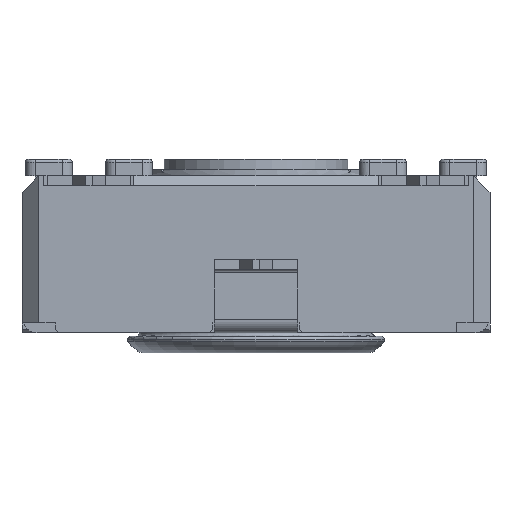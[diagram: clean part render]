
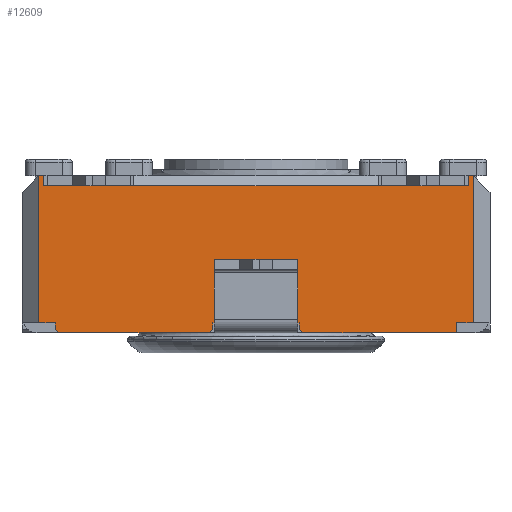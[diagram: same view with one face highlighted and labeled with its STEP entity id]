
A CAD part, front view. The second image highlights one B-rep face of the part: STEP entity #12609.
In plain terms, the highlighted planar face has unit normal (0, -1, 0).
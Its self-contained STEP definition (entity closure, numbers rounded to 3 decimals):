
#656=FACE_OUTER_BOUND('',#1327,.T.);
#1327=EDGE_LOOP('',(#8391,#8392,#8393,#8394,#8395,#8396,#8397,#8398,#8399,
#8400,#8401,#8402,#8403,#8404,#8405,#8406,#8407,#8408,#8409,#8410,#8411,
#8412,#8413,#8414,#8415,#8416,#8417));
#2018=LINE('',#17945,#3511);
#2031=LINE('',#17979,#3524);
#2036=LINE('',#17989,#3529);
#2114=LINE('',#18150,#3607);
#2139=LINE('',#18201,#3632);
#2165=LINE('',#18265,#3658);
#2166=LINE('',#18267,#3659);
#2167=LINE('',#18269,#3660);
#2168=LINE('',#18270,#3661);
#2169=LINE('',#18272,#3662);
#2170=LINE('',#18274,#3663);
#2171=LINE('',#18276,#3664);
#2172=LINE('',#18278,#3665);
#2173=LINE('',#18279,#3666);
#2174=LINE('',#18281,#3667);
#2175=LINE('',#18283,#3668);
#2176=LINE('',#18285,#3669);
#2177=LINE('',#18287,#3670);
#2178=LINE('',#18289,#3671);
#2179=LINE('',#18291,#3672);
#2180=LINE('',#18293,#3673);
#2181=LINE('',#18295,#3674);
#2182=LINE('',#18297,#3675);
#2183=LINE('',#18298,#3676);
#2184=LINE('',#18300,#3677);
#2185=LINE('',#18302,#3678);
#2186=LINE('',#18303,#3679);
#3511=VECTOR('',#14398,10.);
#3524=VECTOR('',#14437,10.);
#3529=VECTOR('',#14442,10.);
#3607=VECTOR('',#14546,10.);
#3632=VECTOR('',#14587,10.);
#3658=VECTOR('',#14635,10.);
#3659=VECTOR('',#14636,10.);
#3660=VECTOR('',#14637,10.);
#3661=VECTOR('',#14638,10.);
#3662=VECTOR('',#14639,10.);
#3663=VECTOR('',#14640,10.);
#3664=VECTOR('',#14641,10.);
#3665=VECTOR('',#14642,10.);
#3666=VECTOR('',#14643,10.);
#3667=VECTOR('',#14644,10.);
#3668=VECTOR('',#14645,10.);
#3669=VECTOR('',#14646,10.);
#3670=VECTOR('',#14647,10.);
#3671=VECTOR('',#14648,10.);
#3672=VECTOR('',#14649,10.);
#3673=VECTOR('',#14650,10.);
#3674=VECTOR('',#14651,10.);
#3675=VECTOR('',#14652,10.);
#3676=VECTOR('',#14653,10.);
#3677=VECTOR('',#14654,10.);
#3678=VECTOR('',#14655,10.);
#3679=VECTOR('',#14656,10.);
#4991=VERTEX_POINT('',#17923);
#4999=VERTEX_POINT('',#17944);
#5007=VERTEX_POINT('',#17978);
#5011=VERTEX_POINT('',#17986);
#5012=VERTEX_POINT('',#17988);
#5081=VERTEX_POINT('',#18147);
#5082=VERTEX_POINT('',#18149);
#5099=VERTEX_POINT('',#18198);
#5100=VERTEX_POINT('',#18200);
#5127=VERTEX_POINT('',#18264);
#5128=VERTEX_POINT('',#18266);
#5129=VERTEX_POINT('',#18268);
#5130=VERTEX_POINT('',#18271);
#5131=VERTEX_POINT('',#18273);
#5132=VERTEX_POINT('',#18275);
#5133=VERTEX_POINT('',#18277);
#5134=VERTEX_POINT('',#18280);
#5135=VERTEX_POINT('',#18282);
#5136=VERTEX_POINT('',#18284);
#5137=VERTEX_POINT('',#18286);
#5138=VERTEX_POINT('',#18288);
#5139=VERTEX_POINT('',#18290);
#5140=VERTEX_POINT('',#18292);
#5141=VERTEX_POINT('',#18294);
#5142=VERTEX_POINT('',#18296);
#5143=VERTEX_POINT('',#18299);
#5144=VERTEX_POINT('',#18301);
#6238=EDGE_CURVE('',#4991,#4999,#2018,.T.);
#6255=EDGE_CURVE('',#5007,#4991,#2031,.T.);
#6260=EDGE_CURVE('',#5012,#5011,#2036,.T.);
#6340=EDGE_CURVE('',#5082,#5081,#2114,.T.);
#6365=EDGE_CURVE('',#5100,#5099,#2139,.T.);
#6397=EDGE_CURVE('',#5081,#5127,#2165,.T.);
#6398=EDGE_CURVE('',#5127,#5128,#2166,.T.);
#6399=EDGE_CURVE('',#5128,#5129,#2167,.T.);
#6400=EDGE_CURVE('',#5012,#5129,#2168,.T.);
#6401=EDGE_CURVE('',#5011,#5130,#2169,.T.);
#6402=EDGE_CURVE('',#5131,#5130,#2170,.T.);
#6403=EDGE_CURVE('',#5131,#5132,#2171,.T.);
#6404=EDGE_CURVE('',#5133,#5132,#2172,.T.);
#6405=EDGE_CURVE('',#5007,#5133,#2173,.T.);
#6406=EDGE_CURVE('',#4999,#5134,#2174,.T.);
#6407=EDGE_CURVE('',#5134,#5135,#2175,.T.);
#6408=EDGE_CURVE('',#5136,#5135,#2176,.T.);
#6409=EDGE_CURVE('',#5136,#5137,#2177,.T.);
#6410=EDGE_CURVE('',#5137,#5138,#2178,.T.);
#6411=EDGE_CURVE('',#5138,#5139,#2179,.T.);
#6412=EDGE_CURVE('',#5140,#5139,#2180,.T.);
#6413=EDGE_CURVE('',#5140,#5141,#2181,.T.);
#6414=EDGE_CURVE('',#5141,#5142,#2182,.T.);
#6415=EDGE_CURVE('',#5142,#5100,#2183,.T.);
#6416=EDGE_CURVE('',#5099,#5143,#2184,.T.);
#6417=EDGE_CURVE('',#5144,#5143,#2185,.T.);
#6418=EDGE_CURVE('',#5144,#5082,#2186,.T.);
#8391=ORIENTED_EDGE('',*,*,#6340,.T.);
#8392=ORIENTED_EDGE('',*,*,#6397,.T.);
#8393=ORIENTED_EDGE('',*,*,#6398,.T.);
#8394=ORIENTED_EDGE('',*,*,#6399,.T.);
#8395=ORIENTED_EDGE('',*,*,#6400,.F.);
#8396=ORIENTED_EDGE('',*,*,#6260,.T.);
#8397=ORIENTED_EDGE('',*,*,#6401,.T.);
#8398=ORIENTED_EDGE('',*,*,#6402,.F.);
#8399=ORIENTED_EDGE('',*,*,#6403,.T.);
#8400=ORIENTED_EDGE('',*,*,#6404,.F.);
#8401=ORIENTED_EDGE('',*,*,#6405,.F.);
#8402=ORIENTED_EDGE('',*,*,#6255,.T.);
#8403=ORIENTED_EDGE('',*,*,#6238,.T.);
#8404=ORIENTED_EDGE('',*,*,#6406,.T.);
#8405=ORIENTED_EDGE('',*,*,#6407,.T.);
#8406=ORIENTED_EDGE('',*,*,#6408,.F.);
#8407=ORIENTED_EDGE('',*,*,#6409,.T.);
#8408=ORIENTED_EDGE('',*,*,#6410,.T.);
#8409=ORIENTED_EDGE('',*,*,#6411,.T.);
#8410=ORIENTED_EDGE('',*,*,#6412,.F.);
#8411=ORIENTED_EDGE('',*,*,#6413,.T.);
#8412=ORIENTED_EDGE('',*,*,#6414,.T.);
#8413=ORIENTED_EDGE('',*,*,#6415,.T.);
#8414=ORIENTED_EDGE('',*,*,#6365,.T.);
#8415=ORIENTED_EDGE('',*,*,#6416,.T.);
#8416=ORIENTED_EDGE('',*,*,#6417,.F.);
#8417=ORIENTED_EDGE('',*,*,#6418,.T.);
#11889=PLANE('',#13326);
#12609=ADVANCED_FACE('',(#656),#11889,.T.);
#13326=AXIS2_PLACEMENT_3D('',#18263,#14633,#14634);
#14398=DIRECTION('',(1.,0.,0.));
#14437=DIRECTION('',(1.,0.,0.));
#14442=DIRECTION('',(1.,0.,0.));
#14546=DIRECTION('',(-1.,0.,0.));
#14587=DIRECTION('',(-1.,0.,0.));
#14633=DIRECTION('center_axis',(0.,-1.,0.));
#14634=DIRECTION('ref_axis',(0.,0.,-1.));
#14635=DIRECTION('',(-1.,0.,0.));
#14636=DIRECTION('',(0.,0.,1.));
#14637=DIRECTION('',(-1.,0.,0.));
#14638=DIRECTION('',(0.,0.,1.));
#14639=DIRECTION('',(0.,0.,-1.));
#14640=DIRECTION('',(-0.707,0.,0.707));
#14641=DIRECTION('',(1.,0.,0.));
#14642=DIRECTION('',(-0.707,0.,-0.707));
#14643=DIRECTION('',(0.,0.,-1.));
#14644=DIRECTION('',(1.,0.,0.));
#14645=DIRECTION('',(0.,0.,-1.));
#14646=DIRECTION('',(-0.707,0.,0.707));
#14647=DIRECTION('',(1.,0.,0.));
#14648=DIRECTION('',(0.,0.,1.));
#14649=DIRECTION('',(1.,0.,0.));
#14650=DIRECTION('',(0.,0.,-1.));
#14651=DIRECTION('',(-1.,0.,0.));
#14652=DIRECTION('',(0.,0.,-1.));
#14653=DIRECTION('',(-1.,0.,0.));
#14654=DIRECTION('',(-1.,0.,0.));
#14655=DIRECTION('',(1.,0.,0.));
#14656=DIRECTION('',(-1.,0.,0.));
#17923=CARTESIAN_POINT('',(-8.717,-9.898,0.));
#17944=CARTESIAN_POINT('',(-6.217,-9.898,0.));
#17945=CARTESIAN_POINT('',(-14.467,-9.898,0.));
#17978=CARTESIAN_POINT('',(-8.767,-9.898,0.));
#17979=CARTESIAN_POINT('',(-14.467,-9.898,0.));
#17986=CARTESIAN_POINT('',(-13.467,-9.898,0.));
#17988=CARTESIAN_POINT('',(-13.967,-9.898,0.));
#17989=CARTESIAN_POINT('',(-7.245,-9.898,0.));
#18147=CARTESIAN_POINT('',(-13.717,-9.898,4.1));
#18149=CARTESIAN_POINT('',(-11.217,-9.898,4.1));
#18150=CARTESIAN_POINT('',(-6.467,-9.898,4.1));
#18198=CARTESIAN_POINT('',(-3.717,-9.898,4.1));
#18200=CARTESIAN_POINT('',(-1.217,-9.898,4.1));
#18201=CARTESIAN_POINT('',(-1.467,-9.898,4.1));
#18263=CARTESIAN_POINT('Origin',(-0.467,-9.898,0.));
#18264=CARTESIAN_POINT('',(-13.817,-9.898,4.1));
#18265=CARTESIAN_POINT('',(-3.944,-9.898,4.1));
#18266=CARTESIAN_POINT('',(-13.817,-9.898,4.4));
#18267=CARTESIAN_POINT('',(-13.817,-9.898,2.2));
#18268=CARTESIAN_POINT('',(-13.967,-9.898,4.4));
#18269=CARTESIAN_POINT('',(-14.467,-9.898,4.4));
#18270=CARTESIAN_POINT('',(-13.967,-9.898,0.));
#18271=CARTESIAN_POINT('',(-13.467,-9.898,-0.2));
#18272=CARTESIAN_POINT('',(-13.467,-9.898,-0.15));
#18273=CARTESIAN_POINT('',(-13.367,-9.898,-0.3));
#18274=CARTESIAN_POINT('',(-10.242,-9.898,-3.425));
#18275=CARTESIAN_POINT('',(-8.867,-9.898,-0.3));
#18276=CARTESIAN_POINT('',(-0.467,-9.898,-0.3));
#18277=CARTESIAN_POINT('',(-8.767,-9.898,-0.2));
#18278=CARTESIAN_POINT('',(-6.667,-9.898,1.9));
#18279=CARTESIAN_POINT('',(-8.767,-9.898,0.));
#18280=CARTESIAN_POINT('',(-6.167,-9.898,0.));
#18281=CARTESIAN_POINT('',(-14.467,-9.898,0.));
#18282=CARTESIAN_POINT('',(-6.167,-9.898,-0.2));
#18283=CARTESIAN_POINT('',(-6.167,-9.898,0.));
#18284=CARTESIAN_POINT('',(-6.067,-9.898,-0.3));
#18285=CARTESIAN_POINT('',(-4.767,-9.898,-1.6));
#18286=CARTESIAN_POINT('',(-1.467,-9.898,-0.3));
#18287=CARTESIAN_POINT('',(-0.467,-9.898,-0.3));
#18288=CARTESIAN_POINT('',(-1.467,-9.898,0.));
#18289=CARTESIAN_POINT('',(-1.467,-9.898,-0.15));
#18290=CARTESIAN_POINT('',(-0.967,-9.898,0.));
#18291=CARTESIAN_POINT('',(-0.646,-9.898,0.));
#18292=CARTESIAN_POINT('',(-0.967,-9.898,4.4));
#18293=CARTESIAN_POINT('',(-0.967,-9.898,0.));
#18294=CARTESIAN_POINT('',(-1.117,-9.898,4.4));
#18295=CARTESIAN_POINT('',(-14.467,-9.898,4.4));
#18296=CARTESIAN_POINT('',(-1.117,-9.898,4.1));
#18297=CARTESIAN_POINT('',(-1.117,-9.898,2.2));
#18298=CARTESIAN_POINT('',(-1.862,-9.898,4.1));
#18299=CARTESIAN_POINT('',(-3.817,-9.898,4.1));
#18300=CARTESIAN_POINT('',(-1.862,-9.898,4.1));
#18301=CARTESIAN_POINT('',(-11.117,-9.898,4.1));
#18302=CARTESIAN_POINT('',(-3.967,-9.898,4.1));
#18303=CARTESIAN_POINT('',(-3.944,-9.898,4.1));
